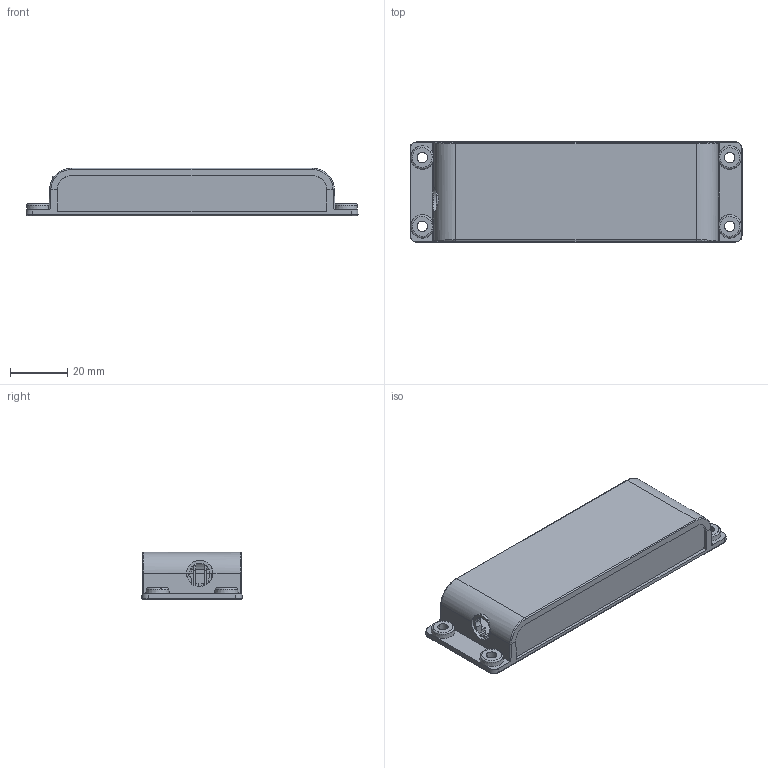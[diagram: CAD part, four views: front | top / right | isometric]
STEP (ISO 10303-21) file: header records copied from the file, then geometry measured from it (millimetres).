
FILE_DESCRIPTION((''),'2;1');
FILE_NAME('Q1','2024-10-28T12:49:17',('Administrator'),(''),'CREO PARAMETRIC BY PTC INC, 2022073','CREO PARAMETRIC BY PTC INC, 2022073','');
FILE_SCHEMA(('AUTOMOTIVE_DESIGN { 1 0 10303 214 1 1 1 1 }'));
Length unit declared in the file: millimetre
Products named in the file (1): Q1
Bounding box: 115.76 x 34.91 x 16.5 mm (x, y, z)
Volume: 19002.4 mm3; surface area: 25385.7 mm2
Topology: 2 solids, 2 shells, 626 faces, 1740 edges, 1135 vertices
Faces by surface type: plane 415, cylinder 139, cone 32, torus 24, bspline 8, sphere 8
Entity records: 26817 total; most frequent: CARTESIAN_POINT 5516, ORIENTED_EDGE 3464, DIRECTION 3071, PRESENTATION_STYLE_ASSIGNMENT 1734, STYLED_ITEM 1734, CURVE_STYLE 1732, EDGE_CURVE 1732, VECTOR 1273
